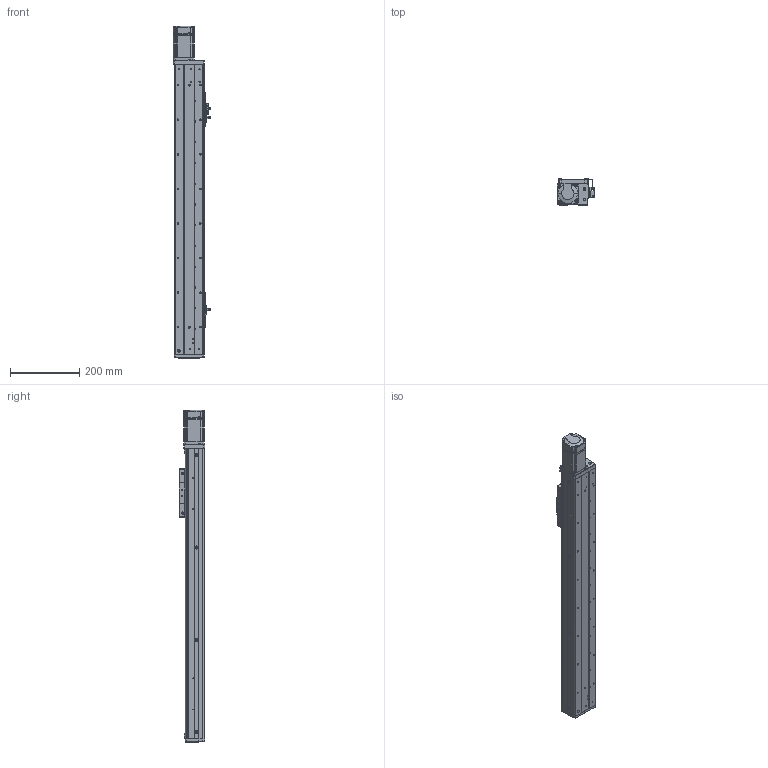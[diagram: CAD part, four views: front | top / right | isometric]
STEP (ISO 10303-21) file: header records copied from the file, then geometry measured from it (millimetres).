
FILE_DESCRIPTION (( 'STEP AP203' ), '1' );
FILE_NAME ('RY80F-L1610-300-MK.SLDASM_600.step', '2021-03-02T03:18:58', ( '盈信电脑' ), ( '东莞市道滘镇水果街19号' ), 'SwSTEP 2.0', 'SolidWorks 2012', '' );
FILE_SCHEMA (( 'CONFIG_CONTROL_DESIGN' ));
Length unit declared in the file: millimetre
Products named in the file (16): RY80俋离覜茼え; RY80F-L1610-300-MK.SLDASM_600; 覜茼ん672; 滅袉蝶18-24; 侂狟200W萇儂; 1; 672嫖萇羲壽假蚾釱; RY80F-詩湍揤踡輸; 蚥薯蝶紫輸; RY80F-綴裔啣(臏璃ㄘ; RY80F-丝杆铝滑块(16丝杆）; RY80F-佪裝眻蟀ヶ裔啣(200W PCD70 M4); RY80F-滅鳥裔啣; RY80F-300-祥凄詩湍-MK_600; RY80F-丝杆直连型材底座_600; RY80F-300丝杆直连型材盖板_600
Assembly tree (21 placements, depth 3):
  RY80F-L1610-300-MK.SLDASM_600
    RY80F-丝杆直连型材底座_600
    RY80F-300丝杆直连型材盖板_600  x2
    RY80F-丝杆铝滑块(16丝杆）
    RY80F-滅鳥裔啣
    RY80F-300-祥凄詩湍-MK_600
    RY80F-佪裝眻蟀ヶ裔啣(200W PCD70 M4)
    RY80F-詩湍揤踡輸  x2
    RY80F-綴裔啣(臏璃ㄘ
    672嫖萇羲壽假蚾釱  x2
    蚥薯蝶紫輸
    滅袉蝶18-24  x2
    侂狟200W萇儂
      1
    RY80俋离覜茼え
    覜茼ん672  x3
Bounding box: 107.2 x 75 x 960 mm (x, y, z)
Volume: 1867839.9 mm3; surface area: 728289.2 mm2
Topology: 20 solids, 20 shells, 1708 faces, 4719 edges, 3078 vertices
Faces by surface type: plane 805, cylinder 776, cone 109, bspline 18
Entity records: 49243 total; most frequent: CARTESIAN_POINT 10603, ORIENTED_EDGE 7710, DIRECTION 7669, EDGE_CURVE 3855, AXIS2_PLACEMENT_3D 2694, VERTEX_POINT 2530, VECTOR 2281, LINE 2281
